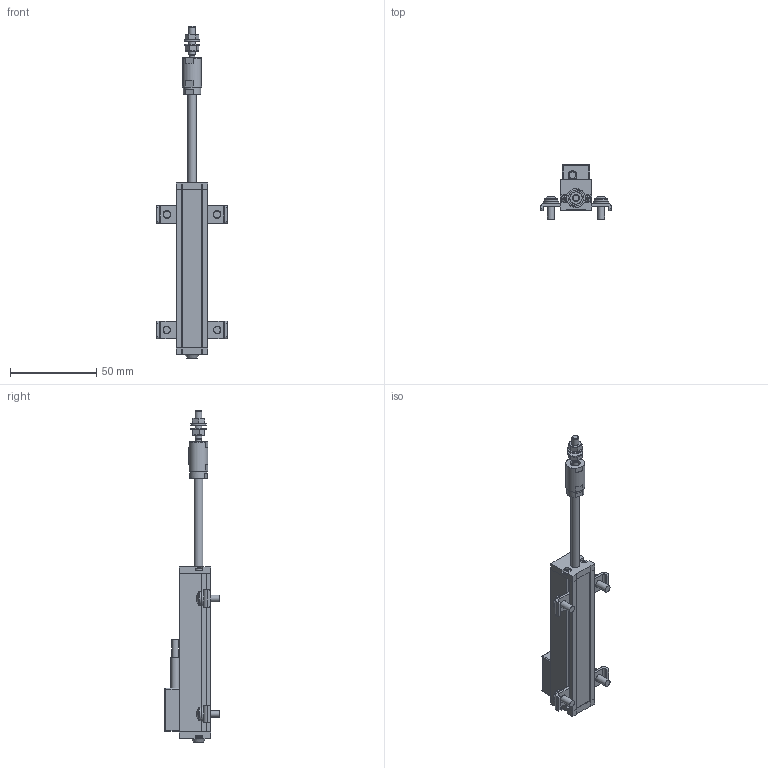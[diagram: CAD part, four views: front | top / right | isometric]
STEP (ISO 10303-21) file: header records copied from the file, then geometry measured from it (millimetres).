
FILE_DESCRIPTION (( 'STEP AP214' ), '1' );
FILE_NAME ('SPI18_K_50.STEP', '2019-04-23T08:56:57', ( '' ), ( '' ), 'SwSTEP 2.0', 'SolidWorks 2017', '' );
FILE_SCHEMA (( 'AUTOMOTIVE_DESIGN' ));
Length unit declared in the file: millimetre
Products named in the file (20): Spannklammer_SPR18_m_S; SPI18_Kabelausgang; Kupplungsachse_rundversion_M4; SPI18_Kabel; SPI18_50_K_Gehäuse; hex nut style 1 gradeab_iso_ISO - 4032 - M4 - D - N; SPI18_K_50; countersunk flat head cross recess screw_din_ISO 7046-1 - M2 x 10 - Z --- 10N; SPI18E_Adapter_M8x0-5; plain washer normal grade a_iso_Washer ISO 7089 - 4; pan cross head_am_B18.6.7M - M4 x 0.7 x 10 Type I Cross Recessed PHMS --10N; Spannklammer_SPR18; SPI18E_Kupplung_M4; SPI18E_Endkappe; Kupplungskoerper_rund_M4; SPI18E_Endkappe_r點k_Ausbuchtung; SPI18E_50_Schubstange; pan head cross recess screw_iso_ISO 7045 - M2 x 10 - Z - 10N; conical spring washer 1_din_DIN 6796-4; SPI18E_50_Gehäuse_bgr
Assembly tree (29 placements, depth 3):
  SPI18_K_50
    SPI18E_50_Gehäuse_bgr
      SPI18_50_K_Gehäuse
      SPI18E_Endkappe  x2
      SPI18E_Endkappe_r點k_Ausbuchtung
      pan head cross recess screw_iso_ISO 7045 - M2 x 10 - Z - 10N  x4
    SPI18E_Kupplung_M4
      Kupplungskoerper_rund_M4
      Kupplungsachse_rundversion_M4
      hex nut style 1 gradeab_iso_ISO - 4032 - M4 - D - N  x2
      plain washer normal grade a_iso_Washer ISO 7089 - 4  x2
    SPI18E_50_Schubstange
    SPI18E_Adapter_M8x0-5
    SPI18_Kabelausgang
    SPI18_Kabel
    countersunk flat head cross recess screw_din_ISO 7046-1 - M2 x 10 - Z --- 10N  x2
    Spannklammer_SPR18_m_S  x4
      Spannklammer_SPR18
      pan cross head_am_B18.6.7M - M4 x 0.7 x 10 Type I Cross Recessed PHMS --10N
      conical spring washer 1_din_DIN 6796-4
Bounding box: 41 x 31.5 x 192.11 mm (x, y, z)
Volume: 39706.5 mm3; surface area: 19224.5 mm2
Topology: 32 solids, 32 shells, 573 faces, 1278 edges, 780 vertices
Faces by surface type: plane 338, cylinder 104, cone 104, torus 15, sphere 12
Full cylindrical faces by diameter (mm): 1 x4, 1.6 x2, 2 x6, 2.3 x4, 2.4 x2, 2.5 x2, 3 x1, 3.2 x1, 3.3 x2, 3.8 x3, 4 x11, 4.3 x6, 4.5 x4, 5 x2, 5.2 x2, 6 x1, 7 x1, 8 x5, 9 x6, 10 x1, 11 x1
Entity records: 8164 total; most frequent: CARTESIAN_POINT 1374, DIRECTION 1278, ORIENTED_EDGE 1038, EDGE_CURVE 519, AXIS2_PLACEMENT_3D 513, EDGE_LOOP 358, VERTEX_POINT 353, FACE_OUTER_BOUND 311
